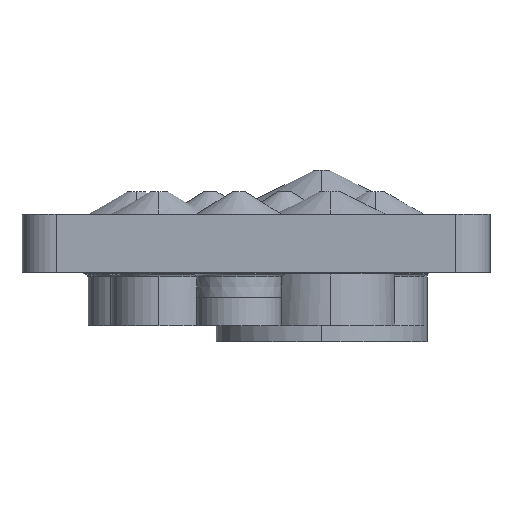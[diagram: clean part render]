
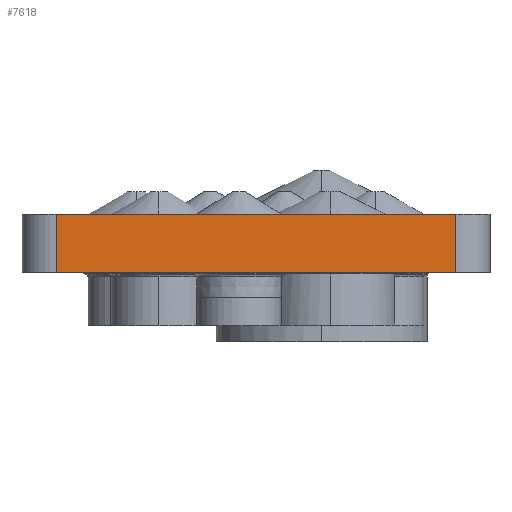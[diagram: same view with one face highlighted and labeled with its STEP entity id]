
A CAD part, left-side view. The second image highlights one B-rep face of the part: STEP entity #7618.
In plain terms, the highlighted planar face has unit normal (-1, 0, 0).
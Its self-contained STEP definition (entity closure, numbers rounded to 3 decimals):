
#1033 = VERTEX_POINT ( 'NONE', #12628 ) ;
#1034 = VERTEX_POINT ( 'NONE', #12634 ) ;
#1235 = LINE ( 'NONE', #9646, #1241 ) ;
#1241 = VECTOR ( 'NONE', #9647, 1000. ) ;
#1291 = LINE ( 'NONE', #4750, #1295 ) ;
#1295 = VECTOR ( 'NONE', #4752, 1000. ) ;
#1431 = LINE ( 'NONE', #5037, #1435 ) ;
#1435 = VECTOR ( 'NONE', #5038, 1000. ) ;
#2219 = FACE_OUTER_BOUND ( 'NONE', #12670, .T. ) ;
#2908 = EDGE_CURVE ( 'NONE', #1034, #1033, #1235, .T. ) ;
#2939 = EDGE_CURVE ( 'NONE', #1034, #6928, #1291, .T. ) ;
#3018 = EDGE_CURVE ( 'NONE', #1033, #6925, #1431, .T. ) ;
#4750 = CARTESIAN_POINT ( 'NONE',  ( -214., 6., -8. ) ) ;
#4752 = DIRECTION ( 'NONE',  ( 0., 0., 1. ) ) ;
#5037 = CARTESIAN_POINT ( 'NONE',  ( -214., 76., -8. ) ) ;
#5038 = DIRECTION ( 'NONE',  ( 0., 0., 1. ) ) ;
#5681 = CARTESIAN_POINT ( 'NONE',  ( -214., 76., 0. ) ) ;
#5684 = CARTESIAN_POINT ( 'NONE',  ( -214., 6., 0. ) ) ;
#6509 = CARTESIAN_POINT ( 'NONE',  ( -214., 56., 0. ) ) ;
#6510 = DIRECTION ( 'NONE',  ( 0., -1., 0. ) ) ;
#6925 = VERTEX_POINT ( 'NONE', #5681 ) ;
#6928 = VERTEX_POINT ( 'NONE', #5684 ) ;
#7618 = ADVANCED_FACE ( 'NONE', ( #2219 ), #10116, .F. ) ;
#9646 = CARTESIAN_POINT ( 'NONE',  ( -214., 6., -10.2 ) ) ;
#9647 = DIRECTION ( 'NONE',  ( 0., 1., 0. ) ) ;
#10110 = CARTESIAN_POINT ( 'NONE',  ( -214., 6., -8. ) ) ;
#10116 = PLANE ( 'NONE',  #17820 ) ;
#10118 = DIRECTION ( 'NONE',  ( 1., 0., 0. ) ) ;
#10119 = DIRECTION ( 'NONE',  ( 0., -1., 0. ) ) ;
#12147 = EDGE_CURVE ( 'NONE', #6925, #6928, #16660, .T. ) ;
#12628 = CARTESIAN_POINT ( 'NONE',  ( -214., 76., -10.2 ) ) ;
#12634 = CARTESIAN_POINT ( 'NONE',  ( -214., 6., -10.2 ) ) ;
#12670 = EDGE_LOOP ( 'NONE', ( #13719, #13720, #13721, #13722 ) ) ;
#13719 = ORIENTED_EDGE ( 'NONE', *, *, #12147, .F. ) ;
#13720 = ORIENTED_EDGE ( 'NONE', *, *, #3018, .F. ) ;
#13721 = ORIENTED_EDGE ( 'NONE', *, *, #2908, .F. ) ;
#13722 = ORIENTED_EDGE ( 'NONE', *, *, #2939, .T. ) ;
#16660 = LINE ( 'NONE', #6509, #16661 ) ;
#16661 = VECTOR ( 'NONE', #6510, 1000. ) ;
#17820 = AXIS2_PLACEMENT_3D ( 'NONE', #10110, #10118, #10119 ) ;
